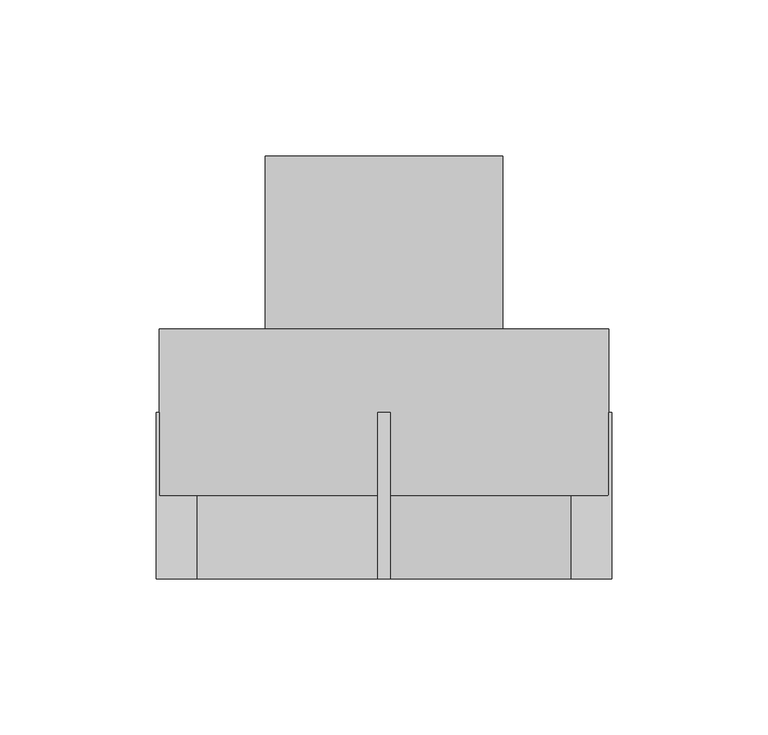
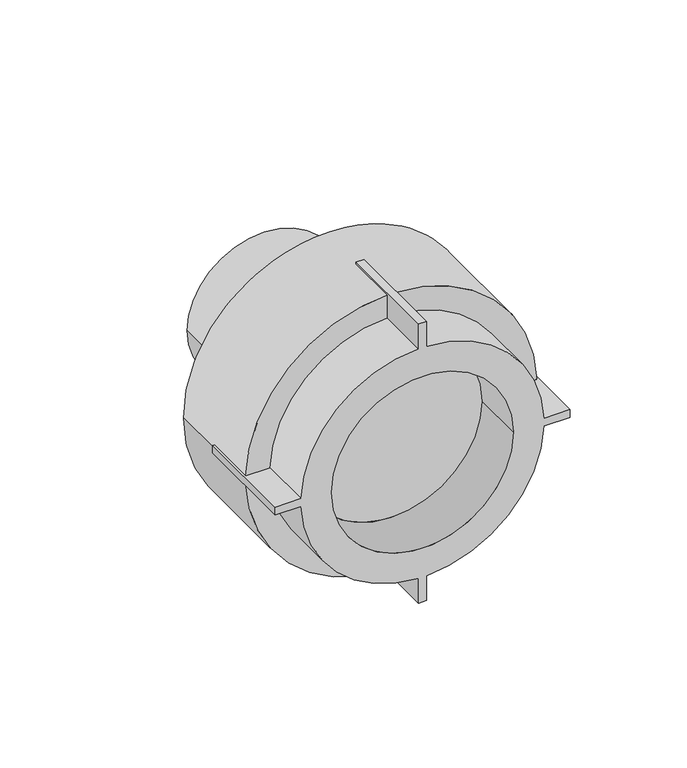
"""IFC4 building model written with IfcOpenShell, lengths in millimetres: pipe fitting geometry, EGB_VASEN_ PPR_Entronque rosca macho WXR101 : Entronque rosca macho WXR101."""

from ifc_helpers import new_model, si_unit, point, frame, origin, origin_2d, place, context, project, spatial, polyline, circle_curve, trimmed, segment, composite_curve, outline, extrude, source, transform, mapped, element, save
from ifc_brep_helpers import plane_surface, cylinder_surface, revolved_surface, advanced_brep


def pipe_fitting_b88737a6(model_context):
    return source(origin(), model_context, "Body", "SolidModel", [
        advanced_brep(
        [(2.0, -26.6666667, 73.0), (-2.0, -26.6666667, 73.0), (-2.0, -26.6666667, 59.9666574), (-59.9666574, -26.6666667, 2.0), (-73.0, -26.6666667, 2.0), (-73.0, -26.6666667, -2.0), (-59.9666574, -26.6666667, -2.0), (-2.0, -26.6666667, -59.9666574), (-2.0, -26.6666667, -73.0), (2.0, -26.6666667, -73.0), (2.0, -26.6666667, -59.9666574), (59.9666574, -26.6666667, -2.0), (73.0, -26.6666667, -2.0), (73.0, -26.6666667, 2.0), (59.9666574, -26.6666667, 2.0), (2.0, -26.6666667, 59.9666574), (-45.0, -26.6666667, 0.0), (45.0, -26.6666667, 0.0), (-2.0, 26.6666667, 73.0), (2.0, 26.6666667, 73.0), (2.0, 26.6666667, 71.9722169), (-2.0, 26.6666667, 71.9722169), (2.0, 26.6666667, -73.0), (-2.0, 26.6666667, -73.0), (-2.0, 26.6666667, -71.9722169), (2.0, 26.6666667, -71.9722169), (73.0, 26.6666667, 2.0), (73.0, 26.6666667, -2.0), (71.9722169, 26.6666667, -2.0), (72.0, 26.6666667, 0.0), (71.9722169, 26.6666667, 2.0), (-73.0, 26.6666667, -2.0), (-73.0, 26.6666667, 2.0), (-71.9722169, 26.6666667, 2.0), (-72.0, 26.6666667, 0.0), (-71.9722169, 26.6666667, -2.0), (2.0, 0.0, 59.9666574), (2.0, 0.0, 71.9722169), (-2.0, 0.0, 71.9722169), (-2.0, 0.0, 59.9666574), (2.0, 0.0, -71.9722169), (2.0, 0.0, -59.9666574), (-2.0, 0.0, -59.9666574), (-2.0, 0.0, -71.9722169), (59.9666574, 0.0, -2.0), (71.9722169, 0.0, -2.0), (71.9722169, 0.0, 2.0), (59.9666574, 0.0, 2.0), (-71.9722169, 0.0, -2.0), (-59.9666574, 0.0, -2.0), (-59.9666574, 0.0, 2.0), (-71.9722169, 0.0, 2.0), (-45.0, 0.0, 0.0), (45.0, 0.0, 0.0), (-72.0, 53.3333333, 0.0), (72.0, 53.3333333, 0.0)],
        [
            (0, 1),
            (1, 2),
            (2, 3, circle_curve(frame((0.0, -26.6666667, 0.0), z_axis=(0.0, -1.0, 0.0), x_axis=(1.0, 0.0, 0.0)), 60.0)),
            (3, 4),
            (4, 5),
            (5, 6),
            (6, 7, circle_curve(frame((0.0, -26.6666667, 0.0), z_axis=(0.0, -1.0, 0.0), x_axis=(1.0, 0.0, 0.0)), 60.0)),
            (7, 8),
            (8, 9),
            (9, 10),
            (10, 11, circle_curve(frame((0.0, -26.6666667, 0.0), z_axis=(0.0, -1.0, 0.0), x_axis=(1.0, 0.0, 0.0)), 60.0)),
            (11, 12),
            (12, 13),
            (13, 14),
            (14, 15, circle_curve(frame((0.0, -26.6666667, 0.0), z_axis=(0.0, -1.0, 0.0), x_axis=(1.0, 0.0, 0.0)), 60.0)),
            (15, 0),
            (16, 17, circle_curve(frame((0.0, -26.6666667, 0.0), z_axis=(0.0, 1.0, 0.0), x_axis=(1.0, 0.0, 0.0)), 45.0)),
            (17, 16, circle_curve(frame((0.0, -26.6666667, 0.0), z_axis=(0.0, 1.0, 0.0), x_axis=(1.0, 0.0, 0.0)), 45.0)),
            (18, 19),
            (19, 20),
            (20, 21, circle_curve(frame((0.0, 26.6666667, 0.0), z_axis=(0.0, -1.0, 0.0), x_axis=(1.0, 0.0, 0.0)), 72.0)),
            (21, 18),
            (22, 23),
            (23, 24),
            (24, 25, circle_curve(frame((0.0, 26.6666667, 0.0), z_axis=(0.0, -1.0, 0.0), x_axis=(1.0, 0.0, 0.0)), 72.0)),
            (25, 22),
            (26, 27),
            (27, 28),
            (28, 29, circle_curve(frame((0.0, 26.6666667, 0.0), z_axis=(0.0, -1.0, 0.0), x_axis=(1.0, 0.0, 0.0)), 72.0)),
            (29, 30, circle_curve(frame((0.0, 26.6666667, 0.0), z_axis=(0.0, -1.0, 0.0), x_axis=(1.0, 0.0, 0.0)), 72.0)),
            (30, 26),
            (31, 32),
            (32, 33),
            (33, 34, circle_curve(frame((0.0, 26.6666667, 0.0), z_axis=(0.0, -1.0, 0.0), x_axis=(1.0, 0.0, 0.0)), 72.0)),
            (34, 35, circle_curve(frame((0.0, 26.6666667, 0.0), z_axis=(0.0, -1.0, 0.0), x_axis=(1.0, 0.0, 0.0)), 72.0)),
            (35, 31),
            (19, 0),
            (15, 36),
            (36, 37),
            (37, 20),
            (18, 1),
            (21, 38),
            (38, 39),
            (39, 2),
            (8, 23),
            (22, 9),
            (25, 40),
            (40, 41),
            (41, 10),
            (7, 42),
            (42, 43),
            (43, 24),
            (27, 12),
            (11, 44),
            (44, 45),
            (45, 28),
            (26, 13),
            (30, 46),
            (46, 47),
            (47, 14),
            (5, 31),
            (35, 48),
            (48, 49),
            (49, 6),
            (32, 4),
            (3, 50),
            (50, 51),
            (51, 33),
            (49, 42, circle_curve(frame((0.0, 0.0, 0.0), z_axis=(0.0, -1.0, 0.0), x_axis=(1.0, 0.0, 0.0)), 60.0)),
            (41, 44, circle_curve(frame((0.0, 0.0, 0.0), z_axis=(0.0, -1.0, 0.0), x_axis=(1.0, 0.0, 0.0)), 60.0)),
            (39, 50, circle_curve(frame((0.0, 0.0, 0.0), z_axis=(0.0, -1.0, 0.0), x_axis=(1.0, 0.0, 0.0)), 60.0)),
            (47, 36, circle_curve(frame((0.0, 0.0, 0.0), z_axis=(0.0, -1.0, 0.0), x_axis=(1.0, 0.0, 0.0)), 60.0)),
            (16, 52),
            (52, 53, circle_curve(frame((0.0, 0.0, 0.0), z_axis=(0.0, 1.0, 0.0), x_axis=(1.0, 0.0, 0.0)), 45.0)),
            (53, 17),
            (53, 52, circle_curve(frame((0.0, 0.0, 0.0), z_axis=(0.0, 1.0, 0.0), x_axis=(1.0, 0.0, 0.0)), 45.0)),
            (40, 45, circle_curve(frame((0.0, 0.0, 0.0), z_axis=(0.0, -1.0, 0.0), x_axis=(1.0, 0.0, 0.0)), 72.0)),
            (48, 43, circle_curve(frame((0.0, 0.0, 0.0), z_axis=(0.0, -1.0, 0.0), x_axis=(1.0, 0.0, 0.0)), 72.0)),
            (46, 37, circle_curve(frame((0.0, 0.0, 0.0), z_axis=(0.0, -1.0, 0.0), x_axis=(1.0, 0.0, 0.0)), 72.0)),
            (38, 51, circle_curve(frame((0.0, 0.0, 0.0), z_axis=(0.0, -1.0, 0.0), x_axis=(1.0, 0.0, 0.0)), 72.0)),
            (54, 55, circle_curve(frame((0.0, 53.3333333, 0.0), z_axis=(0.0, 1.0, 0.0), x_axis=(1.0, 0.0, 0.0)), 72.0)),
            (55, 54, circle_curve(frame((0.0, 53.3333333, 0.0), z_axis=(0.0, 1.0, 0.0), x_axis=(1.0, 0.0, 0.0)), 72.0)),
            (55, 29),
            (34, 54),
        ],
        [
            plane_surface(frame((0.0, -26.6666667, 0.0), z_axis=(0.0, -1.0, 0.0), x_axis=(0.0, 0.0, 1.0))),
            plane_surface(frame((0.0, 26.6666667, 0.0), z_axis=(0.0, 1.0, 0.0), x_axis=(0.0, 0.0, 1.0))),
            plane_surface(frame((2.0, -26.6666667, 59.0), z_axis=(1.0, 0.0, 0.0), x_axis=(0.0, 1.0, 0.0))),
            plane_surface(frame((2.0, -26.6666667, 73.0), z_axis=(0.0, 0.0, 1.0), x_axis=(0.0, 1.0, 0.0))),
            plane_surface(frame((-2.0, -26.6666667, 73.0), z_axis=(-1.0, 0.0, 0.0), x_axis=(0.0, 1.0, 0.0))),
            plane_surface(frame((-2.0, -26.6666667, -73.0), z_axis=(0.0, 0.0, -1.0), x_axis=(0.0, 1.0, 0.0))),
            plane_surface(frame((2.0, -26.6666667, -73.0), z_axis=(1.0, 0.0, 0.0), x_axis=(0.0, 1.0, 0.0))),
            plane_surface(frame((-2.0, -26.6666667, -59.0), z_axis=(-1.0, 0.0, 0.0), x_axis=(0.0, 1.0, 0.0))),
            plane_surface(frame((59.0, -26.6666667, -2.0), z_axis=(0.0, 0.0, -1.0), x_axis=(0.0, 1.0, 0.0))),
            plane_surface(frame((73.0, -26.6666667, -2.0), z_axis=(1.0, 0.0, 0.0), x_axis=(0.0, 1.0, 0.0))),
            plane_surface(frame((73.0, -26.6666667, 2.0), z_axis=(0.0, 0.0, 1.0), x_axis=(0.0, 1.0, 0.0))),
            plane_surface(frame((-73.0, -26.6666667, -2.0), z_axis=(0.0, 0.0, -1.0), x_axis=(0.0, 1.0, 0.0))),
            plane_surface(frame((-59.0, -26.6666667, 2.0), z_axis=(0.0, 0.0, 1.0), x_axis=(0.0, 1.0, 0.0))),
            plane_surface(frame((-73.0, -26.6666667, 2.0), z_axis=(-1.0, 0.0, 0.0), x_axis=(0.0, 1.0, 0.0))),
            cylinder_surface(frame((0.0, 0.0, 0.0), z_axis=(0.0, -1.0, 0.0), x_axis=(1.0, 0.0, 0.0)), 60.0),
            revolved_surface(polyline([(45.0, 0.0, 0.0), (45.0, -26.6666667, 0.0)]), (0.0, 0.0, 0.0), (0.0, 1.0, 0.0)),
            plane_surface(frame((72.0, 0.0, 0.0), z_axis=(0.0, -1.0, 0.0), x_axis=(0.0, 0.0, 1.0))),
            plane_surface(frame((72.0, 53.3333333, 0.0), z_axis=(0.0, 1.0, 0.0), x_axis=(0.0, 0.0, -1.0))),
            cylinder_surface(frame((0.0, 53.3333333, 0.0), z_axis=(0.0, -1.0, 0.0), x_axis=(1.0, 0.0, 0.0)), 72.0),
        ],
        [
            (0, [[1, 2, 3, 4, 5, 6, 7, 8, 9, 10, 11, 12, 13, 14, 15, 16], [17, 18]]),
            (1, [[19, 20, 21, 22]]),
            (1, [[23, 24, 25, 26]]),
            (1, [[27, 28, 29, 30, 31]]),
            (1, [[32, 33, 34, 35, 36]]),
            (2, [[37, -16, 38, 39, 40, -20]]),
            (3, [[-1, -37, -19, 41]]),
            (4, [[-41, -22, 42, 43, 44, -2]]),
            (5, [[-9, 45, -23, 46]]),
            (6, [[-46, -26, 47, 48, 49, -10]]),
            (7, [[-45, -8, 50, 51, 52, -24]]),
            (8, [[53, -12, 54, 55, 56, -28]]),
            (9, [[-13, -53, -27, 57]]),
            (10, [[-57, -31, 58, 59, 60, -14]]),
            (11, [[61, -36, 62, 63, 64, -6]]),
            (12, [[65, -4, 66, 67, 68, -33]]),
            (13, [[-5, -65, -32, -61]]),
            (14, [[-7, -64, 69, -50]]),
            (14, [[-11, -49, 70, -54]]),
            (14, [[-3, -44, 71, -66]]),
            (14, [[-15, -60, 72, -38]]),
            (15, [[-17, 73, 74, 75]]),
            (15, [[-18, -75, 76, -73]]),
            (16, [[-74, -76]]),
            (16, [[77, -55, -70, -48]]),
            (16, [[78, -51, -69, -63]]),
            (16, [[79, -39, -72, -59]]),
            (16, [[80, -67, -71, -43]]),
            (17, [[81, 82]]),
            (18, [[-82, 83, -29, -56, -77, -47, -25, -52, -78, -62, -35, 84]]),
            (18, [[-81, -84, -34, -68, -80, -42, -21, -40, -79, -58, -30, -83]]),
        ],
    ),
        extrude(outline(composite_curve([segment(trimmed(circle_curve(origin_2d(), 38.1), [point((0.0, -38.1))], [point((0.0, 38.1))], False, "CARTESIAN"), True, "CONTINUOUS"), segment(trimmed(circle_curve(origin_2d(), 38.1), [point((0.0, 38.1))], [point((0.0, -38.1))], False, "CARTESIAN"), True, "CONTINUOUS")], self_intersect=False)), frame((0.0, 26.6666667, 0.0), z_axis=(0.0, 1.0, 0.0), x_axis=(0.0, 0.0, 1.0)), (0.0, 0.0, 1.0), 82.1666667),
    ])


if __name__ == "__main__":
    model = new_model("IFC4")
    model_context = context("Model", 3, world=origin())
    ifc_project = project(units=[si_unit("LENGTHUNIT", "METRE", prefix="MILLI")], contexts=[model_context])
    site = spatial("IfcSite", under=ifc_project)
    building = spatial("IfcBuilding", under=site)
    placement = place(None, origin())
    pipe_fitting_shape = pipe_fitting_b88737a6(model_context)
    element("IfcPipeFitting", 1, ObjectType="EGB_VASEN_ PPR_Entronque rosca macho WXR101 : Entronque rosca macho WXR101", at=placement, inside=building, context=model_context, shape_type="MappedRepresentation", body=[
        mapped(pipe_fitting_shape, transform((0.0, 0.0, 0.0), x_axis=(1.0, 0.0, 0.0), y_axis=(0.0, 1.0, 0.0), z_axis=(0.0, 0.0, 1.0))),
    ])
    save(model, "model.ifc")
